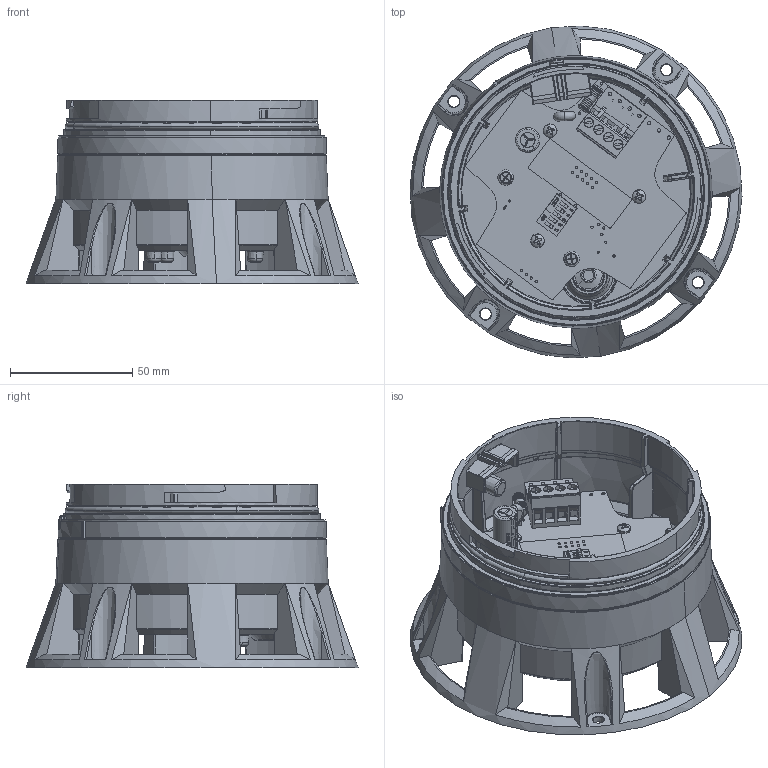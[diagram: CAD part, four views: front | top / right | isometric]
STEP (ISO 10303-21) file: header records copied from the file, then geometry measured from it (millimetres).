
FILE_DESCRIPTION((''),'2;1');
FILE_NAME('855R-BSA','2022-02-17T15:19:03',('WJPreisc'),('Rockwell Automation'),'CREO PARAMETRIC BY PTC INC, 2020281','CREO PARAMETRIC BY PTC INC, 2020281','');
FILE_SCHEMA(('CONFIG_CONTROL_DESIGN'));
Length unit declared in the file: millimetre
Products named in the file (1): 855R-BSA
Bounding box: 135.95 x 135.95 x 75 mm (x, y, z)
Surface area: 117625.5 mm2 (no closed solid volume)
Topology: 0 solids, 187 shells, 1834 faces, 9067 edges, 7227 vertices
Faces by surface type: plane 604, cylinder 389, torus 309, cone 283, bspline 232, sphere 15, extrusion 2
Entity records: 108558 total; most frequent: CARTESIAN_POINT 43196, ORIENTED_EDGE 12255, DIRECTION 12007, EDGE_CURVE 9044, VERTEX_POINT 7227, AXIS2_PLACEMENT_3D 4177, VECTOR 3653, LINE 3651
